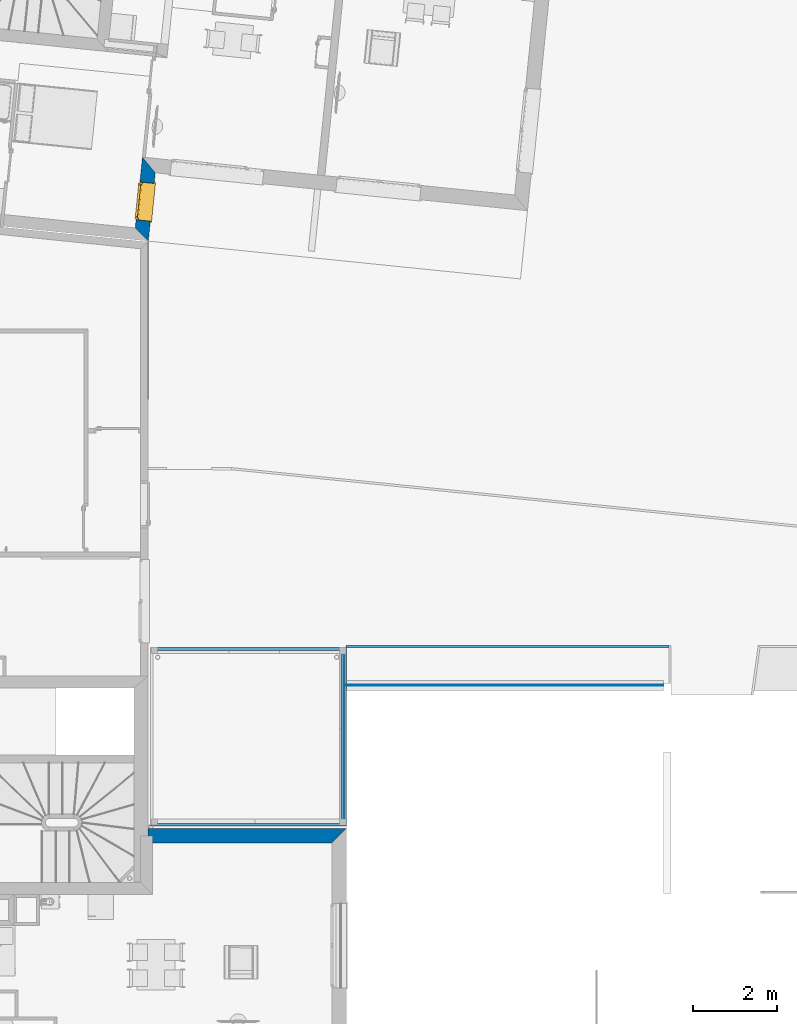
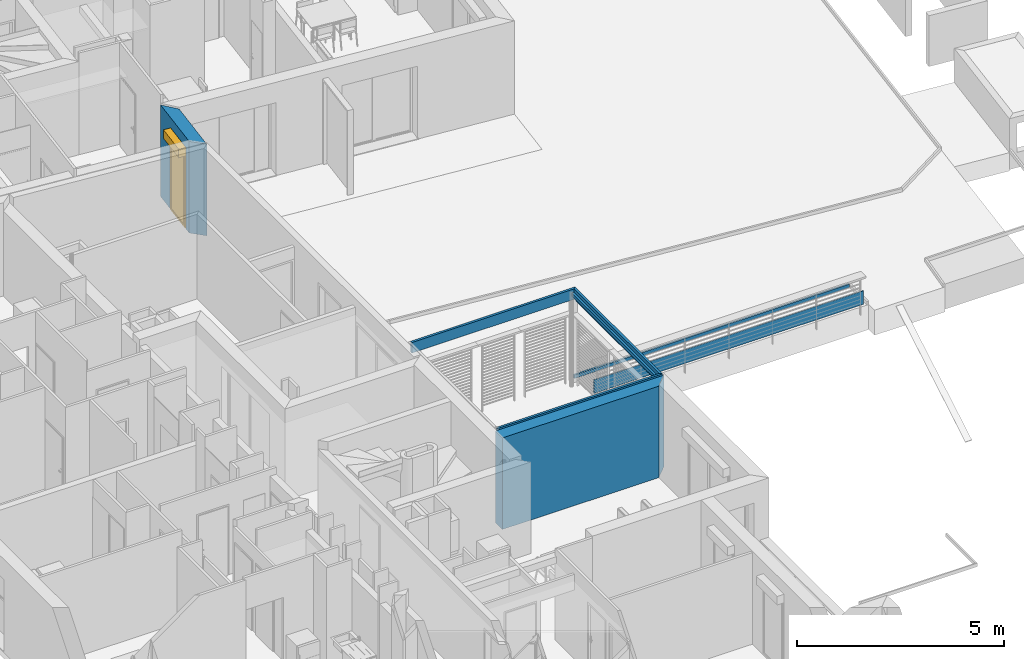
# One storey, part 56 of 171: 8 walls, 1 window, 1 opening.
"""IFC2X3 building model written with IfcOpenShell, lengths in millimetres."""

from ifc_helpers import new_model, entity, si_unit, converted_unit, derived_unit, money_unit, direction, frame, origin_with_axes, place, context, subcontext, project, spatial, polyline, outline, extrude, open_shell, faceted_brep, surface_model, source, transform, mapped, material, layer, layer_set, layer_usage, type_object, element, fill, save


model = new_model("IFC2X3")

# Units and contexts
model_context = context("Model", 3, precision=0.01, world=origin_with_axes(), true_north=direction((0.0, 1.0)))
body_context = subcontext(model_context, "Body", "Model", "MODEL_VIEW")
ifc_project = project(units=[si_unit("LENGTHUNIT", "METRE", prefix="MILLI"), si_unit("AREAUNIT", "SQUARE_METRE"), si_unit("VOLUMEUNIT", "CUBIC_METRE"), converted_unit("PLANEANGLEUNIT", "DEGREE", entity("IfcPlaneAngleMeasure", 0.0174532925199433), si_unit("PLANEANGLEUNIT", "RADIAN"), dimensions=[0, 0, 0, 0, 0, 0, 0]), money_unit("USD"), converted_unit("TIMEUNIT", "Year", entity("IfcTimeMeasure", 31557600.0), si_unit("TIMEUNIT", "SECOND"), dimensions=[0, 0, 1, 0, 0, 0, 0]), si_unit("MASSUNIT", "GRAM", prefix="KILO"), si_unit("THERMODYNAMICTEMPERATUREUNIT", "DEGREE_CELSIUS"), si_unit("LUMINOUSINTENSITYUNIT", "LUMEN"), si_unit("ENERGYUNIT", "JOULE", prefix="MEGA"), derived_unit("THERMALCONDUCTANCEUNIT", [(si_unit("POWERUNIT", "WATT"), 1), (si_unit("LENGTHUNIT", "METRE"), -1), (si_unit("THERMODYNAMICTEMPERATUREUNIT", "KELVIN"), -1)]), derived_unit("SPECIFICHEATCAPACITYUNIT", [(si_unit("ENERGYUNIT", "JOULE"), 1), (si_unit("MASSUNIT", "GRAM", prefix="KILO"), -1), (si_unit("THERMODYNAMICTEMPERATUREUNIT", "KELVIN"), -1)]), derived_unit("MASSDENSITYUNIT", [(si_unit("MASSUNIT", "GRAM", prefix="KILO"), 1), (si_unit("VOLUMEUNIT", "CUBIC_METRE"), -1)])], contexts=[model_context])

# Site, building, storey
site_placement = place(None, origin_with_axes())
site = spatial("IfcSite", under=ifc_project, at=site_placement, Name="Site", CompositionType="ELEMENT")
building_placement = place(site_placement, origin_with_axes())
building = spatial("IfcBuilding", under=site, at=building_placement, Name="Bâtiment", CompositionType="ELEMENT")
storey_placement = place(building_placement, frame((0.0, 0.0, 3000.0), z_axis=(0.0, 0.0, 1.0), x_axis=(1.0, 0.0, 0.0)))
storey = spatial("IfcBuildingStorey", under=building, at=storey_placement, Name="rdc", CompositionType="ELEMENT", Elevation=3000.0)

# Walls
ifc_material_1 = material(Name="Hachure solide 268963992")
ifc_layer_1 = layer(ifc_material_1, 50.0, ventilated="UNKNOWN")
ifc_layer_set_1 = layer_set([ifc_layer_1], Name="Cloison 50")
ifc_layer_usage_1 = layer_usage(ifc_layer_set_1, "AXIS2", "NEGATIVE", 0.0)
wall_type_1 = type_object("IfcWallType", Name="Cloison 50 50", PredefinedType="NOTDEFINED")
wall_1_placement = place(storey_placement, frame((2242056.657570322, -631657.868107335, 0.0), z_axis=(0.0, 0.0, 1.0), x_axis=(-0.9999999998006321, 1.99683705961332e-05, 0.0)))
element("IfcWallStandardCase", 1, at=wall_1_placement, inside=storey, type_object=wall_type_1, material=ifc_layer_usage_1, Name="Mur-165", context=body_context, shape_type="SweptSolid", body=[
    extrude(outline(polyline([(50.0000000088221, -49.99999999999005), (7715.656105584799, -49.99999999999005), (7715.656105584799, 0.0), (49.99905806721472, 0.0), (50.0000000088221, -49.99999999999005)])), origin_with_axes(), (0.0, 0.0, 1.0), 100.0),
])
ifc_material_2 = material(Name="MANQUANT")
ifc_layer_2 = layer(ifc_material_2, 20.0, ventilated="UNKNOWN")
ifc_layer_set_2 = layer_set([ifc_layer_2], Name="MANQUANT 20")
ifc_layer_usage_2 = layer_usage(ifc_layer_set_2, "AXIS2", "NEGATIVE", 20.0)
wall_type_2 = type_object("IfcWallType", Name="MANQUANT 20", PredefinedType="NOTDEFINED")
wall_2_placement = place(storey_placement, frame((2234356.66421011, -632564.6647087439, 100.0000000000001), z_axis=(0.0, 0.0, 1.0), x_axis=(1.0, 0.0, 0.0)))
element("IfcWallStandardCase", 2, at=wall_2_placement, inside=storey, type_object=wall_type_2, material=ifc_layer_usage_2, Name="Mur-152", context=body_context, shape_type="SweptSolid", body=[
    extrude(outline(polyline([(0.0, 0.0), (7519.993383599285, 0.0), (7519.993383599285, 19.99999999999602), (0.0, 19.99999999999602), (0.0, 0.0)])), origin_with_axes(), (0.0, 0.0, 1.0), 400.0),
])
ifc_material_3 = material(Name="Parpaing 312445824")
ifc_layer_3 = layer(ifc_material_3, 180.0, ventilated="UNKNOWN")
ifc_material_4 = material(Name="Isolant styromousse 301821074")
ifc_layer_4 = layer(ifc_material_4, 160.0, ventilated="UNKNOWN")
ifc_layer_set_3 = layer_set([ifc_layer_3, ifc_layer_4], Name="isol int 18+16 0018356637")
ifc_layer_usage_3 = layer_usage(ifc_layer_set_3, "AXIS2", "NEGATIVE", 0.0)
wall_type_3 = type_object("IfcWallType", Name="isol int 18+16 0018356637 340", PredefinedType="NOTDEFINED")
wall_3_placement = place(storey_placement, frame((2229653.476035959, -635953.3438947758, 0.0), z_axis=(0.0, 0.0, 1.0), x_axis=(1.0, 0.0, 0.0)))
element("IfcWallStandardCase", 3, at=wall_3_placement, inside=storey, type_object=wall_type_3, material=ifc_layer_usage_3, Name="Mur-142", context=body_context, shape_type="SweptSolid", body=[
    extrude(outline(polyline([(5.147740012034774e-07, -340.0000000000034), (4363.195260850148, -340.0000000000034), (4703.195260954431, 0.0), (5.812808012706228e-07, 0.0), (5.147740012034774e-07, -340.0000000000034)])), origin_with_axes(), (0.0, 0.0, 1.0), 2700.0),
])

# Wall, opening, window
ifc_layer_usage_4 = layer_usage(ifc_layer_set_3, "AXIS2", "POSITIVE", 0.0)
wall_4_placement = place(storey_placement, frame((2229655.498103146, -622012.6323236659, 0.0), z_axis=(0.0, 0.0, 1.0), x_axis=(0.1011032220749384, 0.9948759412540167, 0.0)))
wall_4 = element("IfcWallStandardCase", 4, at=wall_4_placement, inside=storey, type_object=wall_type_3, material=ifc_layer_usage_4, Name="Mur-142", context=body_context, shape_type="SweptSolid", body=[
    extrude(outline(polyline([(0.0, 0.0), (1628.386302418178, 0.0), (1968.386302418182, 340.0000000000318), (280.0000001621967, 339.9999999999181), (0.0, 0.0)])), origin_with_axes(), (0.0, 0.0, 1.0), 2700.0),
])
opening_placement = place(wall_4_placement, frame((924.7774317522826, 1.13686837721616e-10, 0.0), z_axis=(0.0, 0.0, 1.0), x_axis=(1.0, 0.0, 0.0)))
opening = element("IfcOpeningElement", 5, at=opening_placement, cuts=wall_4, Name="Fen-207", context=body_context, shape_type="Brep", body=[
    faceted_brep([(450.0000000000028, 290.0000000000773, 2150.0), (450.0000000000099, 279.9999999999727, 2150.0), (449.9999999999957, -164.791502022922, 2150.0), (449.9999999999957, -164.791502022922, 0.0), (449.9999999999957, 290.0000000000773, 0.0), (450.0000000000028, 504.7915020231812, 2150.0), (450.0000000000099, 529.9999999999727, 2150.0), (450.0000000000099, 529.9999999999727, 2400.0), (450.0000000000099, 279.9999999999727, 2400.0), (-450.0000000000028, 280.0000000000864, 2150.0), (-450.0000000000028, -164.7915020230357, 2150.0), (-450.0000000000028, -164.7915020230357, 0.0), (-449.9999999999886, 289.9999999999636, 0.0), (-449.9999999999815, 504.7915020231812, 0.0), (450.0000000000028, 504.7915020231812, 0.0), (-449.9999999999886, 504.7915020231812, 2150.0), (-450.0000000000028, 530.0000000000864, 2150.0), (-450.0000000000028, 530.0000000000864, 2400.0), (-450.0000000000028, 280.0000000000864, 2400.0), (-449.9999999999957, 289.9999999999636, 2150.0)], [[[0, 1, 2, 3, 4]], [[1, 0, 5, 6, 7, 8]], [[1, 9, 10, 2]], [[10, 11, 3, 2]], [[4, 3, 11, 12, 13, 14]], [[5, 0, 4, 14]], [[5, 15, 16, 6]], [[16, 17, 7, 6]], [[17, 18, 8, 7]], [[9, 1, 8, 18]], [[9, 19, 12, 11, 10]], [[19, 15, 13, 12]], [[15, 5, 14, 13]], [[19, 9, 18, 17, 16, 15]]]),
])
window_style = type_object("IfcWindowStyle", Name="Fenêtre 27", ConstructionType="NOTDEFINED", OperationType="SINGLE_PANEL", ParameterTakesPrecedence=False, Sizeable=False)
shared_shape = source(origin_with_axes(), body_context, "Body", "SurfaceModel", [
    surface_model("IfcShellBasedSurfaceModel", [(-450.0, -51.00000000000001, 40.00000000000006), (450.0, -51.00000000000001, 40.0), (450.0, -51.00000000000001, 50.0), (-450.0, -51.00000000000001, 50.00000000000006), (-480.0, -369.9999999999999, 28.96551724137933), (480.0, -369.9999999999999, 28.96551724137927), (480.0, -339.9999999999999, 30.00324289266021), (450.0, -339.9999999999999, 30.00324289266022), (-450.0, -339.9999999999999, 30.00324289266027), (-480.0, -339.9999999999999, 30.00324289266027), (-480.0, -369.9999999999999, 8.965517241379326), (480.0, -369.9999999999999, 8.965517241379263), (-480.0, -359.9999999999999, 18.96551724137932), (480.0, -359.9999999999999, 18.96551724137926)], [open_shell([[[0, 1, 2, 3]], [[4, 5, 6, 7, 1, 0, 8, 9]], [[10, 11, 5, 4]], [[12, 13, 11, 10]]])]),
    faceted_brep([(450.0, -59.99999999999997, 2400.0), (450.0, 190.0, 2400.0), (447.0, 190.0, 2400.0), (447.0, -59.99999999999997, 2400.0), (450.0, -59.99999999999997, 2150.0), (450.0, 190.0, 2150.0), (447.0, 190.0, 2150.0), (447.0, -59.99999999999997, 2150.0)], [[[0, 1, 2, 3]], [[0, 4, 5, 1]], [[1, 5, 6, 2]], [[3, 2, 6, 7]], [[4, 0, 3, 7]], [[5, 4, 7, 6]]]),
    faceted_brep([(-447.0, -59.99999999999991, 2400.0), (-447.0, 190.0000000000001, 2400.0), (-450.0, 190.0000000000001, 2400.0), (-450.0, -59.99999999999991, 2400.0), (-447.0, -59.99999999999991, 2150.0), (-447.0, 190.0000000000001, 2150.0), (-450.0, 190.0000000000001, 2150.0), (-450.0, -59.99999999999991, 2150.0)], [[[0, 1, 2, 3]], [[0, 4, 5, 1]], [[1, 5, 6, 2]], [[3, 2, 6, 7]], [[4, 0, 3, 7]], [[5, 4, 7, 6]]]),
    faceted_brep([(447.0, -59.99999999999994, 2150.0), (447.0, -59.99999999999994, 2400.0), (-447.0, -59.99999999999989, 2400.0), (-447.0, -59.99999999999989, 2150.0), (447.0, -56.99999999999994, 2150.0), (447.0, -56.99999999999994, 2397.0), (447.0, 187.0000000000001, 2397.0), (447.0, 187.0000000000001, 2153.0), (447.0, -37.99999999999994, 2153.0), (447.0, -37.99999999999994, 2150.0), (447.0, 190.0000000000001, 2150.0), (447.0, 190.0000000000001, 2400.0), (-447.0, 190.0000000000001, 2400.0), (-447.0, 190.0000000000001, 2150.0), (-447.0, -37.99999999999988, 2150.0), (-447.0, -37.99999999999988, 2153.0), (-447.0, 187.0000000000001, 2153.0), (-447.0, 187.0000000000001, 2397.0), (-447.0, -56.99999999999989, 2397.0), (-447.0, -56.99999999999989, 2150.0)], [[[0, 1, 2, 3]], [[0, 4, 5, 6, 7, 8, 9, 10, 11, 1]], [[1, 11, 12, 2]], [[3, 2, 12, 13, 14, 15, 16, 17, 18, 19]], [[4, 0, 3, 19]], [[5, 4, 19, 18]], [[6, 5, 18, 17]], [[7, 6, 17, 16]], [[8, 7, 16, 15]], [[9, 8, 15, 14]], [[10, 9, 14, 13]], [[11, 10, 13, 12]]]),
    faceted_brep([(444.0, -40.374429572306, 2256.419644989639), (444.0, -35.54711042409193, 2238.403844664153), (444.0, -27.6647182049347, 2221.5), (444.0, -16.96675541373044, 2206.22172576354), (444.0, -3.778274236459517, 2193.033244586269), (444.0, 11.50000000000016, 2182.335281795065), (444.0, 28.40384466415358, 2174.452889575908), (444.0, 46.41964498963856, 2169.625570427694), (444.0, 65.00000000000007, 2168.0), (444.0, 83.5803550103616, 2169.625570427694), (444.0, 101.5961553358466, 2174.452889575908), (444.0, 118.5, 2182.335281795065), (444.0, 133.7782742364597, 2193.033244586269), (444.0, 146.9667554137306, 2206.22172576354), (444.0, 157.6647182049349, 2221.5), (444.0, 165.5471104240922, 2238.403844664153), (444.0, 170.3744295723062, 2256.419644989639), (444.0, 172.0, 2275.0), (444.0, 170.3744295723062, 2293.580355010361), (444.0, 165.5471104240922, 2311.596155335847), (444.0, 157.6647182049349, 2328.5), (444.0, 146.9667554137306, 2343.77827423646), (444.0, 133.7782742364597, 2356.96675541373), (444.0, 118.5, 2367.664718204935), (444.0, 101.5961553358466, 2375.547110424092), (444.0, 83.58035501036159, 2380.374429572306), (444.0, 65.00000000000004, 2382.0), (444.0, 46.4196449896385, 2380.374429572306), (444.0, 28.4038446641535, 2375.547110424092), (444.0, 11.50000000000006, 2367.664718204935), (444.0, -3.778274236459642, 2356.96675541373), (444.0, -16.96675541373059, 2343.77827423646), (444.0, -27.66471820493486, 2328.5), (444.0, -35.54711042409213, 2311.596155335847), (444.0, -40.37442957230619, 2293.580355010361), (444.0, -41.99999999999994, 2275.0), (-444.0, -40.37442957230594, 2256.419644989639), (-444.0, -35.54711042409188, 2238.403844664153), (-444.0, -27.66471820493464, 2221.5), (-444.0, -16.96675541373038, 2206.22172576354), (-444.0, -3.778274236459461, 2193.033244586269), (-444.0, 11.50000000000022, 2182.335281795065), (-444.0, 28.40384466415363, 2174.452889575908), (-444.0, 46.41964498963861, 2169.625570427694), (-444.0, 65.00000000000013, 2168.0), (-444.0, 83.58035501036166, 2169.625570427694), (-444.0, 101.5961553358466, 2174.452889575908), (-444.0, 118.5000000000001, 2182.335281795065), (-444.0, 133.7782742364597, 2193.033244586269), (-444.0, 146.9667554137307, 2206.22172576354), (-444.0, 157.6647182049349, 2221.5), (-444.0, 165.5471104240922, 2238.403844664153), (-444.0, 170.3744295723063, 2256.419644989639), (-444.0, 172.0, 2275.0), (-444.0, 170.3744295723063, 2293.580355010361), (-444.0, 165.5471104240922, 2311.596155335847), (-444.0, 157.664718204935, 2328.5), (-444.0, 146.9667554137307, 2343.77827423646), (-444.0, 133.7782742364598, 2356.96675541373), (-444.0, 118.5000000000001, 2367.664718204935), (-444.0, 101.5961553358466, 2375.547110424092), (-444.0, 83.58035501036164, 2380.374429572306), (-444.0, 65.0000000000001, 2382.0), (-444.0, 46.41964498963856, 2380.374429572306), (-444.0, 28.40384466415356, 2375.547110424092), (-444.0, 11.50000000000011, 2367.664718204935), (-444.0, -3.778274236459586, 2356.96675541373), (-444.0, -16.96675541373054, 2343.77827423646), (-444.0, -27.66471820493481, 2328.5), (-444.0, -35.54711042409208, 2311.596155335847), (-444.0, -40.37442957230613, 2293.580355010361), (-444.0, -41.99999999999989, 2275.0)], [[[0, 1, 2, 3, 4, 5, 6, 7, 8, 9, 10, 11, 12, 13, 14, 15, 16, 17, 18, 19, 20, 21, 22, 23, 24, 25, 26, 27, 28, 29, 30, 31, 32, 33, 34, 35]], [[1, 0, 36, 37]], [[2, 1, 37, 38]], [[3, 2, 38, 39]], [[4, 3, 39, 40]], [[5, 4, 40, 41]], [[6, 5, 41, 42]], [[7, 6, 42, 43]], [[8, 7, 43, 44]], [[9, 8, 44, 45]], [[10, 9, 45, 46]], [[11, 10, 46, 47]], [[12, 11, 47, 48]], [[13, 12, 48, 49]], [[14, 13, 49, 50]], [[15, 14, 50, 51]], [[16, 15, 51, 52]], [[17, 16, 52, 53]], [[18, 17, 53, 54]], [[19, 18, 54, 55]], [[20, 19, 55, 56]], [[21, 20, 56, 57]], [[22, 21, 57, 58]], [[23, 22, 58, 59]], [[24, 23, 59, 60]], [[25, 24, 60, 61]], [[26, 25, 61, 62]], [[27, 26, 62, 63]], [[28, 27, 63, 64]], [[29, 28, 64, 65]], [[30, 29, 65, 66]], [[31, 30, 66, 67]], [[32, 31, 67, 68]], [[33, 32, 68, 69]], [[34, 33, 69, 70]], [[35, 34, 70, 71]], [[0, 35, 71, 36]], [[36, 71, 70, 69, 68, 67, 66, 65, 64, 63, 62, 61, 60, 59, 58, 57, 56, 55, 54, 53, 52, 51, 50, 49, 48, 47, 46, 45, 44, 43, 42, 41, 40, 39, 38, 37]]]),
    faceted_brep([(-450.0, -34.99999999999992, 30.0), (-450.0, -59.99999999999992, 30.0), (-450.0, -59.99999999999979, 2150.0), (-450.0, -34.99999999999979, 2150.0), (-425.0, -34.99999999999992, 30.0), (-425.0, -37.99999999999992, 30.0), (-447.0, -37.99999999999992, 30.0), (-447.0, -56.99999999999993, 30.0), (-425.0, -56.99999999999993, 30.0), (-425.0, -59.99999999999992, 30.0), (-425.0, -59.99999999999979, 2150.0), (-425.0, -56.99999999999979, 2150.0), (-447.0, -56.99999999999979, 2150.0), (-447.0, -37.99999999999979, 2150.0), (-425.0, -37.99999999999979, 2150.0), (-425.0, -34.99999999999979, 2150.0)], [[[0, 1, 2, 3]], [[0, 4, 5, 6, 7, 8, 9, 1]], [[1, 9, 10, 2]], [[3, 2, 10, 11, 12, 13, 14, 15]], [[4, 0, 3, 15]], [[5, 4, 15, 14]], [[6, 5, 14, 13]], [[7, 6, 13, 12]], [[8, 7, 12, 11]], [[9, 8, 11, 10]]]),
    faceted_brep([(450.0, -34.99999999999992, 30.0), (450.0, -34.99999999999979, 2150.0), (450.0, -59.99999999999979, 2150.0), (450.0, -59.99999999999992, 30.0), (425.0, -34.99999999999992, 30.0), (425.0, -34.99999999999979, 2150.0), (425.0, -37.99999999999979, 2150.0), (447.0, -37.99999999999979, 2150.0), (447.0, -56.99999999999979, 2150.0), (425.0, -56.99999999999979, 2150.0), (425.0, -59.99999999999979, 2150.0), (425.0, -59.99999999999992, 30.0), (425.0, -56.99999999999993, 30.0), (447.0, -56.99999999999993, 30.0), (447.0, -37.99999999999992, 30.0), (425.0, -37.99999999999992, 30.0)], [[[0, 1, 2, 3]], [[4, 5, 1, 0]], [[1, 5, 6, 7, 8, 9, 10, 2]], [[3, 2, 10, 11]], [[0, 3, 11, 12, 13, 14, 15, 4]], [[15, 6, 5, 4]], [[14, 7, 6, 15]], [[13, 8, 7, 14]], [[12, 9, 8, 13]], [[11, 10, 9, 12]]]),
    faceted_brep([(-447.0, -46.66666666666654, 2275.0), (447.0, -46.6666666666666, 2275.0), (447.0, -46.6666666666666, 2266.666666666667), (-447.0, -46.66666666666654, 2266.666666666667), (-447.0, -51.66666666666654, 2275.0), (447.0, -51.6666666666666, 2275.0), (447.0, -51.6666666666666, 2266.666666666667), (447.0, -49.99999999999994, 2250.0), (447.0, -44.99999999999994, 2250.0), (-447.0, -44.99999999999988, 2250.0), (-447.0, -49.99999999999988, 2250.0), (-447.0, -51.66666666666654, 2266.666666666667)], [[[0, 1, 2, 3]], [[1, 0, 4, 5]], [[1, 5, 6, 7, 8, 2]], [[2, 8, 9, 3]], [[4, 0, 3, 9, 10, 11]], [[6, 5, 4, 11]], [[7, 6, 11, 10]], [[8, 7, 10, 9]]]),
    faceted_brep([(447.0, -44.99999999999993, 2250.0), (447.0, -46.6666666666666, 2233.333333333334), (-447.0, -46.66666666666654, 2233.333333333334), (-447.0, -44.99999999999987, 2250.0), (447.0, -49.99999999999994, 2250.0), (447.0, -51.6666666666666, 2233.333333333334), (447.0, -51.6666666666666, 2216.666666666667), (447.0, -49.99999999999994, 2200.0), (447.0, -44.99999999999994, 2200.0), (447.0, -46.6666666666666, 2216.666666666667), (-447.0, -46.66666666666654, 2216.666666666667), (-447.0, -44.99999999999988, 2200.0), (-447.0, -49.99999999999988, 2200.0), (-447.0, -51.66666666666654, 2216.666666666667), (-447.0, -51.66666666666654, 2233.333333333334), (-447.0, -49.99999999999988, 2250.0)], [[[0, 1, 2, 3]], [[0, 4, 5, 6, 7, 8, 9, 1]], [[1, 9, 10, 2]], [[3, 2, 10, 11, 12, 13, 14, 15]], [[4, 0, 3, 15]], [[5, 4, 15, 14]], [[6, 5, 14, 13]], [[7, 6, 13, 12]], [[8, 7, 12, 11]], [[9, 8, 11, 10]]]),
    faceted_brep([(447.0, -44.99999999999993, 2200.0), (447.0, -46.6666666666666, 2183.333333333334), (-447.0, -46.66666666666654, 2183.333333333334), (-447.0, -44.99999999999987, 2200.0), (447.0, -49.99999999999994, 2200.0), (447.0, -51.6666666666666, 2183.333333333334), (447.0, -51.6666666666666, 2166.666666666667), (447.0, -49.99999999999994, 2150.000000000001), (447.0, -44.99999999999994, 2150.000000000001), (447.0, -46.6666666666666, 2166.666666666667), (-447.0, -46.66666666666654, 2166.666666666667), (-447.0, -44.99999999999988, 2150.000000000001), (-447.0, -49.99999999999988, 2150.000000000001), (-447.0, -51.66666666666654, 2166.666666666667), (-447.0, -51.66666666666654, 2183.333333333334), (-447.0, -49.99999999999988, 2200.0)], [[[0, 1, 2, 3]], [[0, 4, 5, 6, 7, 8, 9, 1]], [[1, 9, 10, 2]], [[3, 2, 10, 11, 12, 13, 14, 15]], [[4, 0, 3, 15]], [[5, 4, 15, 14]], [[6, 5, 14, 13]], [[7, 6, 13, 12]], [[8, 7, 12, 11]], [[9, 8, 11, 10]]]),
    faceted_brep([(425.0000000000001, 0.0, 2100.0), (425.0000000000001, -25.00000000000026, 2100.0), (400.0, -25.00000000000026, 2100.0), (400.0, -50.00000000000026, 2100.0), (450.0, -50.00000000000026, 2100.0), (450.0, 0.0, 2100.0), (425.0000000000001, 0.0, 50.00000000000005), (425.0000000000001, -25.00000000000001, 50.00000000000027), (400.0, -25.00000000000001, 50.00000000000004), (400.0, -50.00000000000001, 50.00000000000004), (450.0, -50.00000000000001, 50.00000000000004), (450.0, 0.0, 50.00000000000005)], [[[0, 1, 2, 3, 4, 5]], [[1, 0, 6, 7]], [[8, 2, 1, 7]], [[2, 8, 9, 3]], [[4, 3, 9, 10]], [[5, 4, 10, 11]], [[6, 0, 5, 11]], [[7, 6, 11, 10, 9, 8]]]),
    faceted_brep([(-400.0, -25.00000000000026, 2100.0), (-425.0000000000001, -25.00000000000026, 2100.0), (-425.0000000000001, 0.0, 2100.0), (-450.0, 0.0, 2100.0), (-450.0, -50.00000000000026, 2100.0), (-400.0, -50.00000000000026, 2100.0), (-400.0, -25.00000000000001, 50.00000000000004), (-425.0000000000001, -25.00000000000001, 50.00000000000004), (-425.0000000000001, 0.0, 50.00000000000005), (-450.0, 0.0, 50.00000000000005), (-450.0, -50.00000000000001, 50.00000000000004), (-400.0, -50.00000000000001, 50.00000000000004)], [[[0, 1, 2, 3, 4, 5]], [[1, 0, 6, 7]], [[8, 2, 1, 7]], [[2, 8, 9, 3]], [[9, 10, 4, 3]], [[10, 11, 5, 4]], [[6, 0, 5, 11]], [[7, 6, 11, 10, 9, 8]]]),
    faceted_brep([(-400.0, -25.00000000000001, 50.00000000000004), (-425.0000000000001, -25.00000000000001, 50.00000000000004), (-425.0000000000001, 0.0, 50.00000000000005), (-450.0, 0.0, 50.00000000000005), (-450.0, -50.00000000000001, 50.00000000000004), (-400.0, -50.00000000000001, 50.00000000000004), (400.0, -25.00000000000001, 50.00000000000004), (425.0000000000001, -25.00000000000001, 50.00000000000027), (425.0000000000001, -25.0, 24.99999999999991), (-425.0000000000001, -25.0, 24.99999999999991), (-425.0000000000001, 0.0, 24.99999999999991), (425.0000000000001, 0.0, 24.99999999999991), (425.0000000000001, 0.0, 50.00000000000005), (450.0, 0.0, 50.00000000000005), (450.0, 0.0, 0.0), (-450.0, 0.0, 0.0), (-450.0, -50.0, 0.0), (450.0, -50.00000000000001, 50.00000000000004), (400.0, -50.00000000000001, 50.00000000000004), (450.0, -50.0, 0.0)], [[[0, 1, 2, 3, 4, 5]], [[1, 0, 6, 7, 8, 9]], [[10, 2, 1, 9]], [[11, 12, 13, 14, 15, 3, 2, 10]], [[15, 16, 4, 3]], [[17, 18, 5, 4, 16, 19]], [[6, 0, 5, 18]], [[7, 6, 18, 17, 13, 12]], [[7, 12, 11, 8]], [[11, 10, 9, 8]], [[13, 17, 19, 14]], [[14, 19, 16, 15]]]),
    faceted_brep([(425.0000000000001, 0.0, 2100.0), (425.0000000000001, 0.0, 2125.0), (-425.0000000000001, 0.0, 2125.0), (-425.0000000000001, 0.0, 2100.0), (-450.0, 0.0, 2100.0), (-450.0, 0.0, 2150.0), (450.0, 0.0, 2150.0), (450.0, 0.0, 2100.0), (425.0000000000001, -25.00000000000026, 2100.0), (425.0000000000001, -25.00000000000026, 2125.0), (-425.0000000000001, -25.00000000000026, 2125.0), (-425.0000000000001, -25.00000000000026, 2100.0), (-400.0, -25.00000000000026, 2100.0), (-400.0, -50.00000000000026, 2100.0), (-450.0, -50.00000000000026, 2100.0), (-450.0, -50.00000000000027, 2150.0), (450.0, -50.00000000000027, 2150.0), (450.0, -50.00000000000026, 2100.0), (400.0, -50.00000000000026, 2100.0), (400.0, -25.00000000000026, 2100.0)], [[[0, 1, 2, 3, 4, 5, 6, 7]], [[1, 0, 8, 9]], [[2, 1, 9, 10]], [[3, 2, 10, 11]], [[11, 12, 13, 14, 4, 3]], [[4, 14, 15, 5]], [[5, 15, 16, 6]], [[6, 16, 17, 7]], [[8, 0, 7, 17, 18, 19]], [[12, 11, 10, 9, 8, 19]], [[12, 19, 18, 13]], [[14, 13, 18, 17, 16, 15]]]),
    faceted_brep([(375.0000000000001, -25.00000000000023, 2075.0), (425.0000000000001, -25.00000000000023, 2075.0), (425.0000000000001, 24.99999999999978, 2075.0), (375.0000000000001, 24.99999999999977, 2075.0), (375.0000000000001, -24.99999999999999, 75.00000000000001), (425.0000000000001, -24.99999999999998, 75.00000000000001), (425.0000000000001, 25.00000000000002, 75.00000000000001), (375.0000000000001, 25.00000000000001, 75.00000000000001)], [[[0, 1, 2, 3]], [[0, 4, 5, 1]], [[1, 5, 6, 2]], [[3, 2, 6, 7]], [[4, 0, 3, 7]], [[5, 4, 7, 6]]]),
    faceted_brep([(-375.0000000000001, -25.00000000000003, 75.00000000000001), (-425.0000000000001, -25.00000000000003, 75.00000000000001), (-425.0000000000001, 24.99999999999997, 75.00000000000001), (-375.0000000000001, 24.99999999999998, 75.00000000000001), (-375.0000000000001, -25.00000000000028, 2075.0), (-425.0000000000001, -25.00000000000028, 2075.0), (-425.0000000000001, 24.99999999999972, 2075.0), (-375.0000000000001, 24.99999999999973, 2075.0)], [[[0, 1, 2, 3]], [[0, 4, 5, 1]], [[1, 5, 6, 2]], [[3, 2, 6, 7]], [[4, 0, 3, 7]], [[5, 4, 7, 6]]]),
    faceted_brep([(-425.0000000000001, -25.00000000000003, 25.0), (-425.0000000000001, -25.00000000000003, 75.00000000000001), (-425.0000000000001, 24.99999999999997, 75.00000000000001), (-425.0000000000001, 24.99999999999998, 25.00000000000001), (425.0000000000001, -24.99999999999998, 25.0), (425.0000000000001, -24.99999999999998, 75.00000000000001), (375.0000000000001, -24.99999999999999, 75.00000000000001), (-375.0000000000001, -25.00000000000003, 75.00000000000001), (-375.0000000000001, 24.99999999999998, 75.00000000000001), (375.0000000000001, 25.00000000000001, 75.00000000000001), (425.0000000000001, 25.00000000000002, 75.00000000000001), (425.0000000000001, 25.00000000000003, 25.00000000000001)], [[[0, 1, 2, 3]], [[0, 4, 5, 6, 7, 1]], [[1, 7, 8, 2]], [[3, 2, 8, 9, 10, 11]], [[4, 0, 3, 11]], [[5, 4, 11, 10]], [[6, 5, 10, 9]], [[7, 6, 9, 8]]]),
    faceted_brep([(425.0000000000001, -25.00000000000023, 2125.0), (425.0000000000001, -25.00000000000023, 2075.0), (425.0000000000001, 24.99999999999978, 2075.0), (425.0000000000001, 24.99999999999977, 2125.0), (-425.0000000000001, -25.00000000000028, 2125.0), (-425.0000000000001, -25.00000000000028, 2075.0), (-375.0000000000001, -25.00000000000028, 2075.0), (375.0000000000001, -25.00000000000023, 2075.0), (375.0000000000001, 24.99999999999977, 2075.0), (-375.0000000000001, 24.99999999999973, 2075.0), (-425.0000000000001, 24.99999999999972, 2075.0), (-425.0000000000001, 24.99999999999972, 2125.0)], [[[0, 1, 2, 3]], [[0, 4, 5, 6, 7, 1]], [[1, 7, 8, 2]], [[3, 2, 8, 9, 10, 11]], [[4, 0, 3, 11]], [[5, 4, 11, 10]], [[6, 5, 10, 9]], [[7, 6, 9, 8]]]),
    surface_model("IfcShellBasedSurfaceModel", [(375.0000000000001, -10.00000000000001, 75.00000000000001), (375.0000000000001, -10.00000000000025, 2075.0), (-375.0000000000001, -10.00000000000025, 2075.0), (-375.0000000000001, -10.00000000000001, 75.00000000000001)], [open_shell([[[0, 1, 2, 3]]])]),
    surface_model("IfcShellBasedSurfaceModel", [(375.0000000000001, 9.999999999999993, 75.00000000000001), (-375.0000000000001, 9.999999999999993, 75.00000000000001), (-375.0000000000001, 9.99999999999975, 2075.0), (375.0000000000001, 9.99999999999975, 2075.0)], [open_shell([[[0, 1, 2, 3]]])]),
])
window_placement = place(opening_placement, frame((-449.9999999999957, 0.0, 0.0), z_axis=(0.0, 0.0, 1.0), x_axis=(1.0, 0.0, 0.0)))
window = element("IfcWindow", 6, at=window_placement, inside=storey, type_object=window_style, Name="Fen-207", OverallHeight=2150.0, OverallWidth=900.0, context=body_context, shape_type="MappedRepresentation", body=[
    mapped(shared_shape, transform((450.0000000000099, 340.0000000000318, 0.0))),
])
fill(opening, window)

# Walls
ifc_material_5 = material(Name="100 % 282141195")
ifc_layer_5 = layer(ifc_material_5, 65.15280164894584, ventilated="UNKNOWN")
ifc_layer_set_4 = layer_set([ifc_layer_5], Name="100 % 282141195 65.1528")
ifc_layer_usage_5 = layer_usage(ifc_layer_set_4, "AXIS2", "POSITIVE", 0.0)
wall_type_4 = type_object("IfcWallType", Name="100 % 282141195 65", PredefinedType="NOTDEFINED")
wall_5_placement = place(storey_placement, frame((2234356.664210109, -635894.4093631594, 2392.095129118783), z_axis=(0.0, 0.0, 1.0), x_axis=(0.0, 1.0, 0.0)))
element("IfcWallStandardCase", 7, at=wall_5_placement, inside=storey, type_object=wall_type_4, material=ifc_layer_usage_5, Name="Mur-153", context=body_context, shape_type="SweptSolid", body=[
    extrude(outline(polyline([(0.0, 0.0), (4236.695324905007, 0.0), (4171.54252325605, 65.15280164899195), (65.15280164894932, 65.15280164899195), (0.0, 0.0)])), origin_with_axes(), (0.0, 0.0, 1.0), 307.9048708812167),
])
ifc_layer_usage_6 = layer_usage(ifc_layer_set_4, "AXIS2", "POSITIVE", 0.0)
wall_6_placement = place(storey_placement, frame((2234296.74855221, -635894.4093631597, 2500.0), z_axis=(0.0, 0.0, 1.0), x_axis=(0.0, 1.0, 0.0)))
element("IfcWallStandardCase", 8, at=wall_6_placement, inside=storey, type_object=wall_type_4, material=ifc_layer_usage_6, Name="Mur-153", context=body_context, shape_type="SweptSolid", body=[
    extrude(outline(polyline([(65.15280164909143, 0.0), (4171.542523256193, 0.0), (4171.542523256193, 65.15280164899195), (65.15280164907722, 65.15280164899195), (65.15280164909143, 0.0)])), origin_with_axes(), (0.0, 0.0, 1.0), 100.0),
])
ifc_layer_usage_7 = layer_usage(ifc_layer_set_4, "AXIS2", "POSITIVE", -32.57640082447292)
wall_7_placement = place(storey_placement, frame((2234356.66421011, -631690.2904390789, 2392.095129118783), z_axis=(0.0, 0.0, 1.0), x_axis=(-1.0, 0.0, 0.0)))
element("IfcWallStandardCase", 9, at=wall_7_placement, inside=storey, type_object=wall_type_4, material=ifc_layer_usage_7, Name="Mur-153", context=body_context, shape_type="SweptSolid", body=[
    extrude(outline(polyline([(0.0, -32.57640082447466), (4588.035372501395, -32.57640082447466), (4588.035372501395, 32.57640082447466), (65.15280164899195, 32.57640082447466), (0.0, -32.57640082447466)])), origin_with_axes(), (0.0, 0.0, 1.0), 307.9048708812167),
])
ifc_layer_usage_8 = layer_usage(ifc_layer_set_4, "AXIS2", "NEGATIVE", 0.0)
wall_8_placement = place(storey_placement, frame((2234356.664210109, -635894.4093631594, 2500.0), z_axis=(0.0, 0.0, 1.0), x_axis=(-1.0, 0.0, 0.0)))
element("IfcWallStandardCase", 10, at=wall_8_placement, inside=storey, type_object=wall_type_4, material=ifc_layer_usage_8, Name="Mur-153", context=body_context, shape_type="SweptSolid", body=[
    extrude(outline(polyline([(65.15280164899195, -65.15280164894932), (4588.035372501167, -65.15280164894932), (4653.188174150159, 0.0), (0.0, 0.0), (65.15280164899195, -65.15280164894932)])), origin_with_axes(), (0.0, 0.0, 1.0), 200.0),
])

save(model, "model.ifc")
